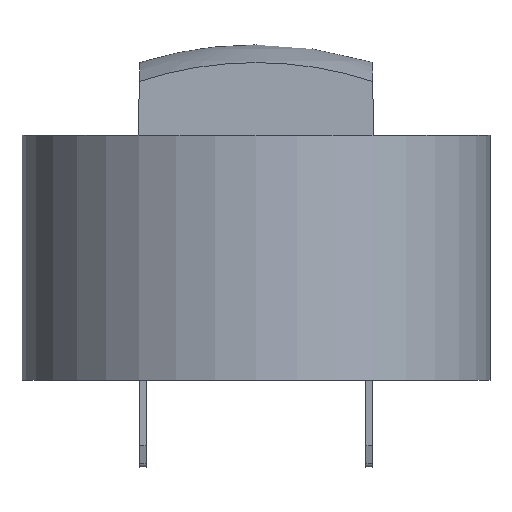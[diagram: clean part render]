
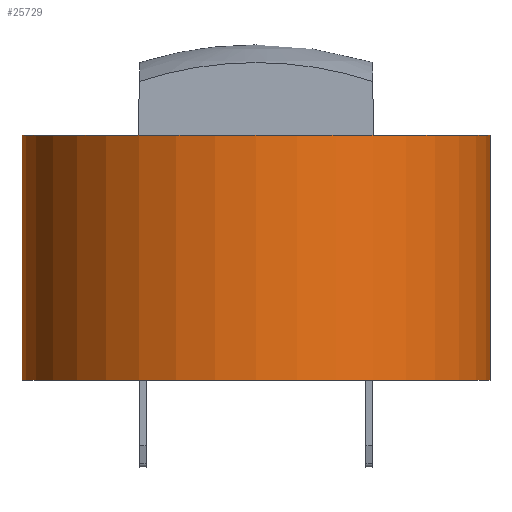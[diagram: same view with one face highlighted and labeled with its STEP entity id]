
A CAD part, front view. The second image highlights one B-rep face of the part: STEP entity #25729.
In plain terms, the highlighted cylindrical face has radius 10.5 mm (diameter 21 mm), a full revolution.
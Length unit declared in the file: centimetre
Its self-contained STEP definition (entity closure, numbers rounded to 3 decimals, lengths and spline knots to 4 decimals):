
#888=CYLINDRICAL_SURFACE($,#27105,1.05);
#1189=FACE_BOUND($,#7527,.T.);
#6172=FACE_OUTER_BOUND($,#7526,.T.);
#7526=EDGE_LOOP($,(#15946));
#7527=EDGE_LOOP($,(#15947));
#8969=CIRCLE($,#27096,1.05);
#8973=CIRCLE($,#27104,1.05);
#9667=VERTEX_POINT($,#35521);
#9671=VERTEX_POINT($,#35533);
#12151=EDGE_CURVE($,#9667,#9667,#8969,.T.);
#12155=EDGE_CURVE($,#9671,#9671,#8973,.T.);
#15946=ORIENTED_EDGE($,*,*,#12155,.T.);
#15947=ORIENTED_EDGE($,*,*,#12151,.T.);
#25729=ADVANCED_FACE($,(#6172,#1189),#888,.T.);
#27096=AXIS2_PLACEMENT_3D($,#35522,#29106,#29107);
#27104=AXIS2_PLACEMENT_3D($,#35534,#29122,#29123);
#27105=AXIS2_PLACEMENT_3D($,#35535,#29124,#29125);
#29106=DIRECTION('center_axis',(0.,0.,
-1.));
#29107=DIRECTION('ref_axis',(1.,0.,0.));
#29122=DIRECTION('center_axis',(0.,0.,
1.));
#29123=DIRECTION('ref_axis',(1.,0.,0.));
#29124=DIRECTION('center_axis',(0.,0.,
-1.));
#29125=DIRECTION('ref_axis',(1.,0.,0.));
#35521=CARTESIAN_POINT('',(-1.05,0.,1.1));
#35522=CARTESIAN_POINT('Origin',(0.,0.,
1.1));
#35533=CARTESIAN_POINT('',(-1.05,0.,0.));
#35534=CARTESIAN_POINT('Origin',(0.,0.,
0.));
#35535=CARTESIAN_POINT('Origin',(0.,0.,
1.1));
